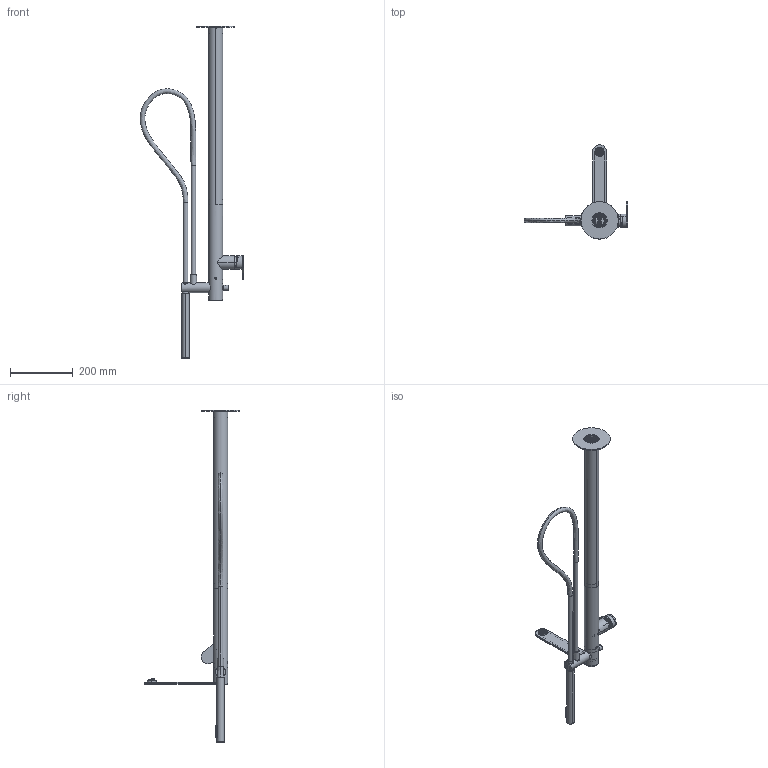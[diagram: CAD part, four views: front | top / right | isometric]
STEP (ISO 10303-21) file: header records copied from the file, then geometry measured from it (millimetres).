
FILE_DESCRIPTION((''),'2;1');
FILE_NAME('7959621_SW0001','2026-10-05T11:39:44',('carloff'),(''),'CREO PARAMETRIC BY PTC INC, 2025443','CREO PARAMETRIC BY PTC INC, 2025443','');
FILE_SCHEMA(('CONFIG_CONTROL_DESIGN'));
Products named in the file (1): 7959621_SW0001
Bounding box: 330.65 x 302.5 x 1059.3 mm (x, y, z)
Volume: 936026.6 mm3; surface area: 569009.2 mm2
Topology: 7 solids, 8 shells, 5411 faces, 13595 edges, 8683 vertices
Faces by surface type: plane 3529, cylinder 1010, cone 624, torus 194, bspline 35, sphere 19
Entity records: 209725 total; most frequent: CARTESIAN_POINT 90872, ORIENTED_EDGE 27142, DIRECTION 20136, EDGE_CURVE 13571, VERTEX_POINT 8683, AXIS2_PLACEMENT_3D 7232, B_SPLINE_CURVE_WITH_KNOTS 6044, EDGE_LOOP 5982
